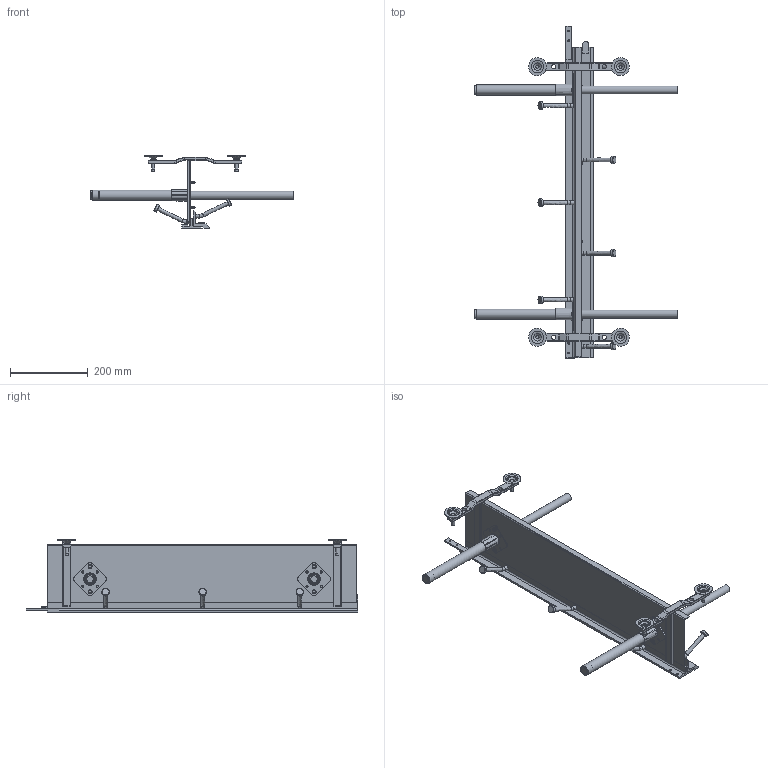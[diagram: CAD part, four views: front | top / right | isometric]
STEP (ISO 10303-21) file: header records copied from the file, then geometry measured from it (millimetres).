
FILE_DESCRIPTION(/* description */ (''),/* implementation_level */ '2;1');
FILE_NAME(/* name */ 'C:\Users\MW\Desktop\Herkuel RF_09.02.2020\Herkules RF.stp',/* time_stamp */ '2020-02-09T10:49:40+01:00',/* author */ ('MW'),/* organization */ (''),/* preprocessor_version */ 'ST-DEVELOPER v16.5',/* originating_system */ 'Autodesk Inventor 2017',/* authorisation */ '');
FILE_SCHEMA (('AUTOMOTIVE_DESIGN { 1 0 10303 214 3 1 1 }'));
Length unit declared in the file: millimetre
Products named in the file (13): Herkules ER; Unterbau Herkules ER; Blech Herkules ER; Winkel Herkules ER; Flansch Herkules ER; Stellfuß Herkules ER; Rohr Herkules ER; Stopfen Herkules ER; 334014_8x16cr3; Stange Herkules ER; Winkel Herkules ER_1; Verankerung Herkules ER; 07175-105x12
Assembly tree (32 placements, depth 2):
  Herkules ER
    Unterbau Herkules ER  x2
    Blech Herkules ER
    Winkel Herkules ER
    Verankerung Herkules ER  x7
    Flansch Herkules ER  x2
    Rohr Herkules ER  x2
    Stopfen Herkules ER  x2
    Stange Herkules ER  x2
    Stellfuß Herkules ER  x4
    334014_8x16cr3  x4
    Winkel Herkules ER_1
    07175-105x12  x4
Bounding box: 521.7 x 855 x 186.22 mm (x, y, z)
Volume: 1564176.4 mm3; surface area: 794712 mm2
Topology: 32 solids, 32 shells, 885 faces, 1970 edges, 1166 vertices
Faces by surface type: plane 407, cylinder 263, cone 88, torus 74, sphere 32, bspline 21
Full cylindrical faces by diameter (mm): 3 x4, 4.2 x4, 4.5 x8, 4.8 x4, 5.5 x12, 6.8 x4, 8 x4, 10.5 x4, 11 x4, 17.3 x2, 19 x7, 20.5 x2, 21.6 x2, 22 x4, 26 x2, 46 x4
Entity records: 10856 total; most frequent: CARTESIAN_POINT 2059, DIRECTION 1891, ORIENTED_EDGE 1560, EDGE_CURVE 780, AXIS2_PLACEMENT_3D 732, EDGE_LOOP 503, VERTEX_POINT 501, LINE 427
